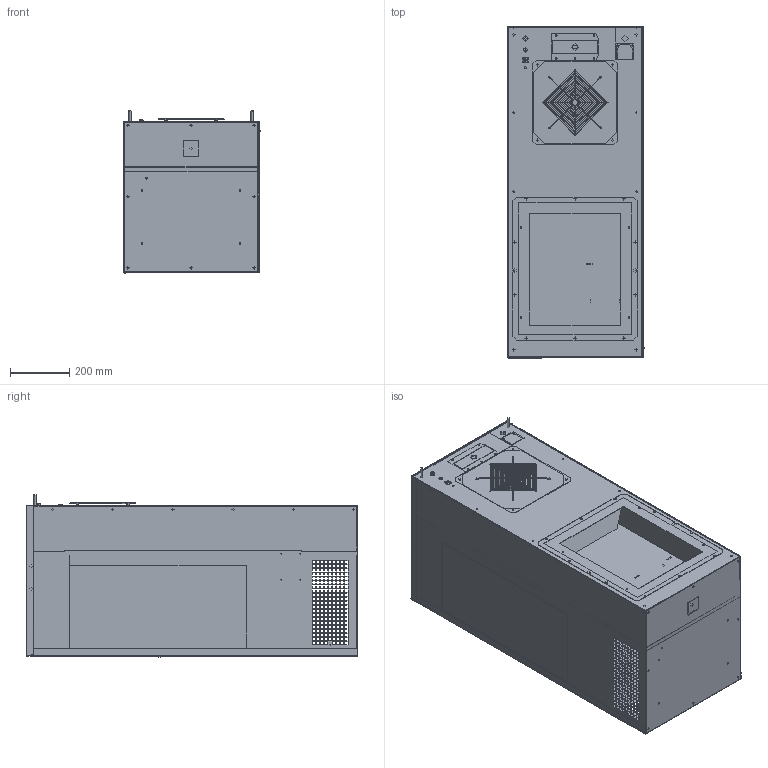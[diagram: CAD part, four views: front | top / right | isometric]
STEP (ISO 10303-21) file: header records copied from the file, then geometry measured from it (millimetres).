
FILE_DESCRIPTION (( 'STEP AP203' ), '1' );
FILE_NAME ('3D Model, IQ14-17-20EV.STEP', '2024-12-20T18:52:54', ( '' ), ( '' ), 'SwSTEP 2.0', 'SolidWorks 2024', '' );
FILE_SCHEMA (( 'CONFIG_CONTROL_DESIGN' ));
Products named in the file (1): 3D Model, IQ14-17-20EV
Bounding box: 465.39 x 1119.12 x 547.76 mm (x, y, z)
Topology: 0 solids, 231 shells, 1883 faces, 11315 edges, 8945 vertices
Faces by surface type: plane 1540, bspline 134, cylinder 95, cone 93, torus 20, sphere 1
Full cylindrical faces by diameter (mm): 2.3 x12, 2.705 x1, 2.794 x2, 3.454 x10, 4.064 x1, 4.166 x4, 4.775 x1, 4.826 x2, 5.105 x8, 5.41 x5, 6 x1, 6.35 x1, 6.668 x1, 7.036 x1, 7.937 x2, 8.731 x1, 8.738 x2, 9.525 x10, 10.001 x1, 11.113 x1, 21.59 x1, 22.225 x1, 25.781 x1, 184.15 x1
Entity records: 157706 total; most frequent: CARTESIAN_POINT 79651, ORIENTED_EDGE 14790, DIRECTION 11345, EDGE_CURVE 11097, VERTEX_POINT 8908, VECTOR 6859, LINE 6859, EDGE_LOOP 3827
